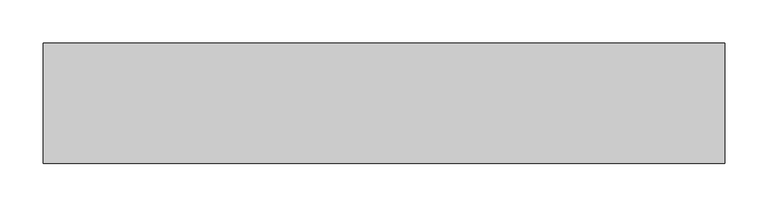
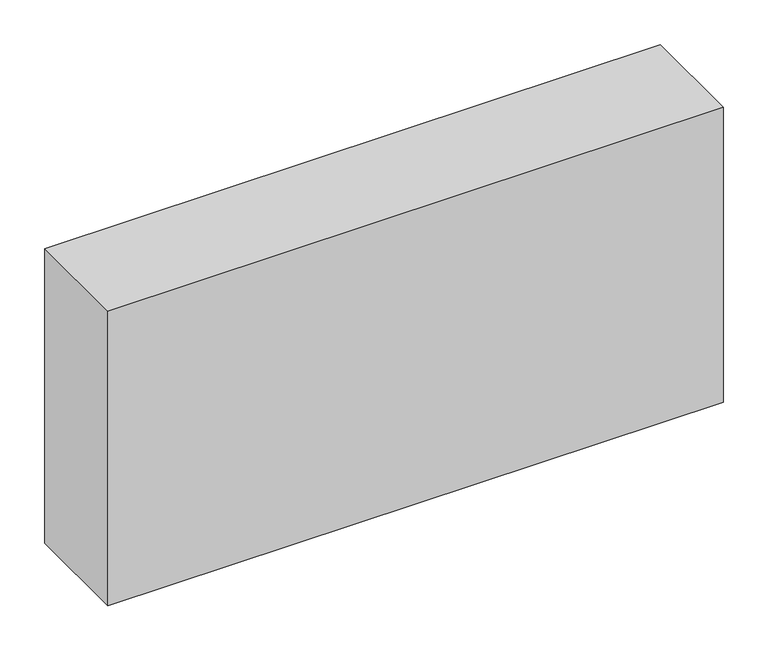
"""IFC4 building model written with IfcOpenShell, lengths in millimetres: proxy geometry."""

from ifc_helpers import new_model, si_unit, frame, origin, place, context, project, spatial, polyline, outline, extrude, source, transform, mapped, element, save


def structural_framing_b4b4ddb9(model_context):
    return source(origin(), model_context, "Body", "SweptSolid", [
        extrude(outline(polyline([(-394.95, -70.0), (-394.95, 70.0), (394.95, 70.0), (394.95, -70.0), (-394.95, -70.0)])), frame((0.0, 0.0, -400.0), z_axis=(0.0, 0.0, 1.0), x_axis=(1.0, 0.0, 0.0)), (0.0, 0.0, 1.0), 400.0),
    ])


if __name__ == "__main__":
    model = new_model("IFC4")
    model_context = context("Model", 3, world=origin())
    ifc_project = project(units=[si_unit("LENGTHUNIT", "METRE", prefix="MILLI")], contexts=[model_context])
    site = spatial("IfcSite", under=ifc_project)
    building = spatial("IfcBuilding", under=site)
    placement = place(None, origin())
    structural_framing_shape = structural_framing_b4b4ddb9(model_context)
    element("IfcBuildingElementProxy", 1, Name="Structural Framing", at=placement, inside=building, context=model_context, shape_type="MappedRepresentation", body=[
        mapped(structural_framing_shape, transform((0.0, 0.0, 0.0), x_axis=(1.0, 0.0, 0.0), y_axis=(0.0, 1.0, 0.0), z_axis=(0.0, 0.0, 1.0))),
    ])
    save(model, "model.ifc")
